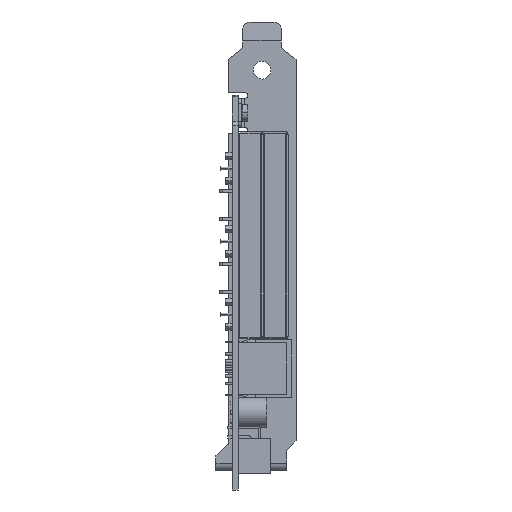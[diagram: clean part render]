
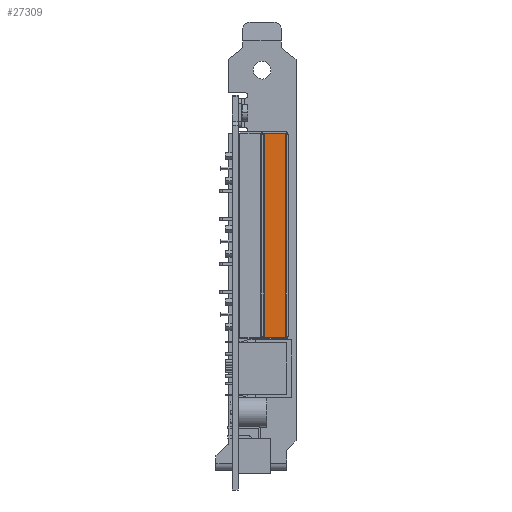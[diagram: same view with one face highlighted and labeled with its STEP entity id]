
A CAD part, front view. The second image highlights one B-rep face of the part: STEP entity #27309.
In plain terms, the highlighted planar face has unit normal (0, -1, 0).
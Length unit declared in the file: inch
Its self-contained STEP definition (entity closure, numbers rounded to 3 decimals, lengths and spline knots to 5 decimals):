
#5984=DIRECTION('',(0.,0.,-1.));
#5985=VECTOR('',#5984,2.17);
#5986=CARTESIAN_POINT('',(0.56088,-0.28,-0.215));
#5987=LINE('',#5986,#5985);
#5988=DIRECTION('',(-1.,0.,0.));
#5989=VECTOR('',#5988,0.21894);
#5990=CARTESIAN_POINT('',(0.56088,-0.28,-2.385));
#5991=LINE('',#5990,#5989);
#5992=DIRECTION('',(0.,0.,1.));
#5993=VECTOR('',#5992,2.17);
#5994=CARTESIAN_POINT('',(0.34194,-0.28,-2.385));
#5995=LINE('',#5994,#5993);
#5996=DIRECTION('',(1.,0.,0.));
#5997=VECTOR('',#5996,0.21894);
#5998=CARTESIAN_POINT('',(0.34194,-0.28,-0.215));
#5999=LINE('',#5998,#5997);
#17415=CARTESIAN_POINT('',(0.34194,-0.28,-0.215));
#17416=CARTESIAN_POINT('',(0.56088,-0.28,-0.215));
#17417=VERTEX_POINT('',#17415);
#17418=VERTEX_POINT('',#17416);
#17439=CARTESIAN_POINT('',(0.56088,-0.28,-2.385));
#17440=CARTESIAN_POINT('',(0.34194,-0.28,-2.385));
#17441=VERTEX_POINT('',#17439);
#17442=VERTEX_POINT('',#17440);
#27296=CARTESIAN_POINT('',(-1.60806,-0.28,-1.3));
#27297=DIRECTION('',(0.,-1.,0.));
#27298=DIRECTION('',(0.,0.,-1.));
#27299=AXIS2_PLACEMENT_3D('',#27296,#27297,#27298);
#27300=PLANE('',#27299);
#27301=ORIENTED_EDGE('',*,*,#26929,.T.);
#27303=ORIENTED_EDGE('',*,*,#27302,.T.);
#27304=ORIENTED_EDGE('',*,*,#27286,.T.);
#27306=ORIENTED_EDGE('',*,*,#27305,.T.);
#27307=EDGE_LOOP('',(#27301,#27303,#27304,#27306));
#27308=FACE_OUTER_BOUND('',#27307,.F.);
#27309=ADVANCED_FACE('',(#27308),#27300,.T.);
#26929=EDGE_CURVE('',#17418,#17441,#5987,.T.);
#27286=EDGE_CURVE('',#17442,#17417,#5995,.T.);
#27302=EDGE_CURVE('',#17441,#17442,#5991,.T.);
#27305=EDGE_CURVE('',#17417,#17418,#5999,.T.);
